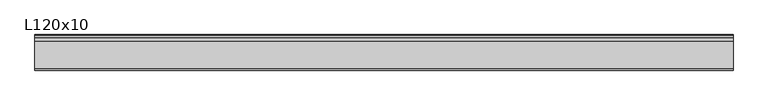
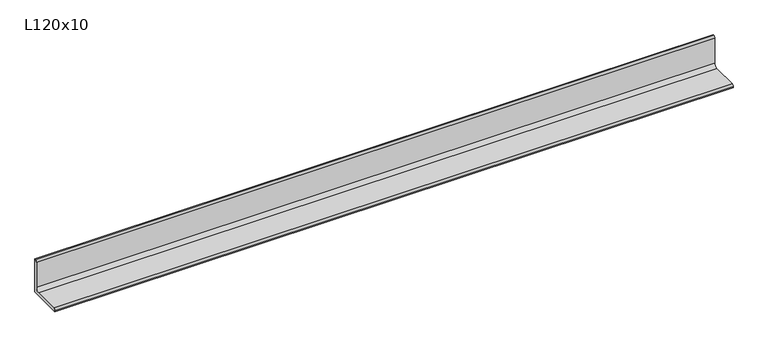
"""IFC4 building model written with IfcOpenShell, lengths in millimetres: beam geometry, L ali uguali : L120x10."""

from ifc_helpers import new_model, si_unit, point, frame, frame_2d, origin, place, context, project, spatial, polyline, circle_curve, trimmed, segment, composite_curve, outline, extrude, source, transform, mapped, element, save


def l120x10_26ae7882(model_context):
    return source(origin(), model_context, "Body", "SweptSolid", [
        extrude(outline(composite_curve([segment(polyline([(41.2, -41.2), (-108.8, -41.2), (-108.8, -37.2)]), True, "CONTINUOUS"), segment(trimmed(circle_curve(frame_2d((-100.8, -37.2)), 8.0), [point((-108.8, -37.2))], [point((-100.8, -29.2))], False, "CARTESIAN"), True, "CONTINUOUS"), segment(polyline([(-100.8, -29.2), (13.2, -29.2)]), True, "CONTINUOUS"), segment(trimmed(circle_curve(frame_2d((13.2, -13.2)), 16.0), [point((13.2, -29.2))], [point((29.2, -13.2))], True, "CARTESIAN"), True, "CONTINUOUS"), segment(polyline([(29.2, -13.2), (29.2, 100.8)]), True, "CONTINUOUS"), segment(trimmed(circle_curve(frame_2d((37.2, 100.8)), 8.0), [point((29.2, 100.8))], [point((37.2, 108.8))], False, "CARTESIAN"), True, "CONTINUOUS"), segment(polyline([(37.2, 108.8), (41.2, 108.8), (41.2, -41.2)]), True, "CONTINUOUS")], self_intersect=False)), frame((-1507.1, 0.0, 0.0), z_axis=(1.0, 0.0, 0.0), x_axis=(0.0, 1.0, 0.0)), (0.0, 0.0, 1.0), 2937.8),
    ])


if __name__ == "__main__":
    model = new_model("IFC4")
    model_context = context("Model", 3, world=origin())
    ifc_project = project(units=[si_unit("LENGTHUNIT", "METRE", prefix="MILLI")], contexts=[model_context])
    site = spatial("IfcSite", under=ifc_project)
    building = spatial("IfcBuilding", under=site)
    placement = place(None, origin())
    l120x10_shape = l120x10_26ae7882(model_context)
    element("IfcBeam", 1, ObjectType="L ali uguali : L120x10", at=placement, inside=building, context=model_context, shape_type="MappedRepresentation", body=[
        mapped(l120x10_shape, transform((0.0, 0.0, 0.0), x_axis=(1.0, 0.0, 0.0), y_axis=(0.0, 1.0, 0.0), z_axis=(0.0, 0.0, 1.0))),
    ])
    save(model, "model.ifc")
